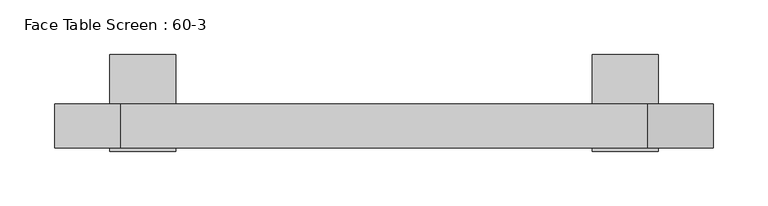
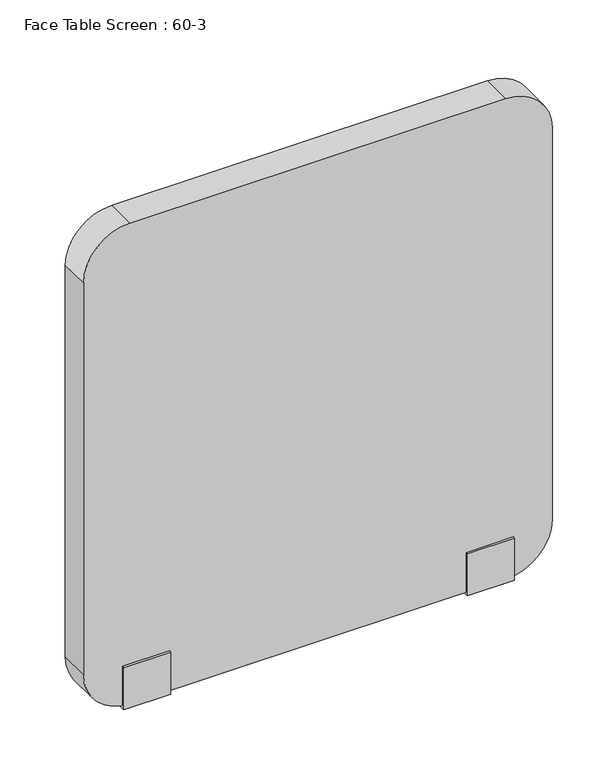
"""IFC4 building model written with IfcOpenShell, lengths in millimetres: furniture geometry, Face Table Screen : 60-3."""

import ifcopenshell
import ifcopenshell.guid

model = None  # the IFC model being written
_history = None  # IfcOwnerHistory: only IFC2X3 demands one
_inside = {}  # id of a spatial element -> (the spatial element, [elements in it])
_under = {}  # id of a project, library or spatial element -> (it, [spatial elements below it])
_declared = {}  # id of a project -> (the project, [libraries it declares])
_typed = {}  # id of a type object -> (the type object, [elements of that type])
_made_of = {}  # id of a material, layer set ... -> (it, [elements and type objects made of it])


def new_model(schema):
    """Start an empty IFC model of exactly this schema.

    Asked for "IFC4X3", IfcOpenShell would pick the latest addendum, in which some entities
    have other attributes; the version numbers below select the first issue.
    IFC2X3 requires an IfcOwnerHistory on every rooted entity: one is made here for all.
    """
    global model, _history
    if schema == "IFC4X3":
        model = ifcopenshell.file(schema_version=(4, 3, 0, 0))
    else:
        model = ifcopenshell.file(schema=schema)
    _inside.clear()
    _under.clear()
    _declared.clear()
    _typed.clear()
    _made_of.clear()
    _history = None
    if model.schema == "IFC2X3":
        org = make("IfcOrganization", Name="unknown")
        user = make(
            "IfcPersonAndOrganization",
            ThePerson=make("IfcPerson", FamilyName="unknown"),
            TheOrganization=org,
        )
        app = make(
            "IfcApplication",
            ApplicationDeveloper=org,
            Version="unknown",
            ApplicationFullName="unknown",
            ApplicationIdentifier="unknown",
        )
        _history = make(
            "IfcOwnerHistory",
            OwningUser=user,
            OwningApplication=app,
            ChangeAction="ADDED",
            CreationDate=0,
        )
    return model


def make(cls, **values):
    """One entity of the class cls with the attributes given. An attribute that is None is left unset."""
    return model.create_entity(
        cls, **{name: value for name, value in values.items() if value is not None}
    )


def rooted(cls, **values):
    """An entity with a GlobalId (a new one), such as an element, a storey or a relation."""
    return make(cls, GlobalId=ifcopenshell.guid.new(), OwnerHistory=_history, **values)


def si_unit(unit_type, name, prefix=None):
    """IfcSIUnit, for example si_unit("LENGTHUNIT", "METRE", prefix="MILLI")."""
    return make("IfcSIUnit", UnitType=unit_type, Prefix=prefix, Name=name)


def assignment(units):
    """IfcUnitAssignment: the units of a project."""
    return None if units is None else make("IfcUnitAssignment", Units=units)


def point(xyz):
    """IfcCartesianPoint."""
    return None if xyz is None else make("IfcCartesianPoint", Coordinates=xyz)


def direction(xyz):
    """IfcDirection."""
    return None if xyz is None else make("IfcDirection", DirectionRatios=xyz)


def frame(location, z_axis=None, x_axis=None):
    """IfcAxis2Placement3D, a coordinate frame: its origin and axes. An axis left out is left unset."""
    return make(
        "IfcAxis2Placement3D",
        Location=point(location),
        Axis=direction(z_axis),
        RefDirection=direction(x_axis),
    )


def frame_2d(location, x_axis=None):
    """IfcAxis2Placement2D, a coordinate frame in the plane: its origin and x axis."""
    return make(
        "IfcAxis2Placement2D", Location=point(location), RefDirection=direction(x_axis)
    )


def origin():
    """The frame at (0, 0, 0) with its axes left unset."""
    return frame((0.0, 0.0, 0.0))


def place(relative_to, where):
    """IfcLocalPlacement: puts the frame where relative to a parent placement (None: the world)."""
    return make(
        "IfcLocalPlacement", PlacementRelTo=relative_to, RelativePlacement=where
    )


def context(
    kind, dimensions, precision=None, world=None, true_north=None, identifier=None
):
    """IfcGeometricRepresentationContext, for example the 3D "Model" context."""
    return make(
        "IfcGeometricRepresentationContext",
        ContextIdentifier=identifier,
        ContextType=kind,
        CoordinateSpaceDimension=dimensions,
        Precision=precision,
        WorldCoordinateSystem=world,
        TrueNorth=true_north,
    )


def project(units=None, contexts=None):
    """IfcProject with its units and contexts."""
    return rooted(
        "IfcProject",
        Name="project",
        RepresentationContexts=contexts,
        UnitsInContext=assignment(units),
    )


def spatial(cls, under=None, at=None, **own):
    """A site, building, storey or space (cls), placed at a placement, below another one or the project."""
    s = rooted(cls, ObjectPlacement=at, **own)
    if under is not None:
        _under.setdefault(under.id(), (under, []))[1].append(s)
    return s


def polyline(points):
    """IfcPolyline through the points."""
    return make("IfcPolyline", Points=[point(p) for p in points])


def circle_curve(where, radius):
    """IfcCircle in the frame where."""
    return make("IfcCircle", Position=where, Radius=radius)


def trimmed(basis, trim1, trim2, sense, master):
    """IfcTrimmedCurve: the piece of a basis curve between two trims."""
    return make(
        "IfcTrimmedCurve",
        BasisCurve=basis,
        Trim1=trim1,
        Trim2=trim2,
        SenseAgreement=sense,
        MasterRepresentation=master,
    )


def segment(curve, same_sense, transition):
    """IfcCompositeCurveSegment."""
    return make(
        "IfcCompositeCurveSegment",
        Transition=transition,
        SameSense=same_sense,
        ParentCurve=curve,
    )


def composite_curve(segments, self_intersect=None):
    """IfcCompositeCurve: segments joined end to end."""
    return make("IfcCompositeCurve", Segments=segments, SelfIntersect=self_intersect)


def outline(outer, holes=None, kind="AREA"):
    """IfcArbitraryClosedProfileDef: a profile drawn as a closed curve; with holes, ...WithVoids."""
    if holes is None:
        return make("IfcArbitraryClosedProfileDef", ProfileType=kind, OuterCurve=outer)
    return make(
        "IfcArbitraryProfileDefWithVoids",
        ProfileType=kind,
        OuterCurve=outer,
        InnerCurves=holes,
    )


def extrude(swept, where, along, depth):
    """IfcExtrudedAreaSolid: the profile swept, set in the frame where, extruded along a direction by depth."""
    return make(
        "IfcExtrudedAreaSolid",
        SweptArea=swept,
        Position=where,
        ExtrudedDirection=direction(along),
        Depth=depth,
    )


def shape(context_of_items, identifier, shape_type, items):
    """IfcShapeRepresentation: the items that make up one representation, for example the "Body"."""
    return make(
        "IfcShapeRepresentation",
        ContextOfItems=context_of_items,
        RepresentationIdentifier=identifier,
        RepresentationType=shape_type,
        Items=items,
    )


def source(mapping_origin, context_of_items, identifier, shape_type, items):
    """IfcRepresentationMap: a shape defined once, which mapped items show again and again."""
    return make(
        "IfcRepresentationMap",
        MappingOrigin=mapping_origin,
        MappedRepresentation=shape(context_of_items, identifier, shape_type, items),
    )


def transform(
    local_origin,
    x_axis=None,
    y_axis=None,
    z_axis=None,
    scale=None,
    scale2=None,
    scale3=None,
    uniform=True,
):
    """IfcCartesianTransformationOperator3D, or its non-uniform kind. x_axis, y_axis, z_axis: its Axis1, 2, 3."""
    if uniform:
        return make(
            "IfcCartesianTransformationOperator3D",
            Axis1=direction(x_axis),
            Axis2=direction(y_axis),
            LocalOrigin=point(local_origin),
            Scale=scale,
            Axis3=direction(z_axis),
        )
    return make(
        "IfcCartesianTransformationOperator3DnonUniform",
        Axis1=direction(x_axis),
        Axis2=direction(y_axis),
        LocalOrigin=point(local_origin),
        Scale=scale,
        Axis3=direction(z_axis),
        Scale2=scale2,
        Scale3=scale3,
    )


def mapped(mapping_source, mapping_target):
    """IfcMappedItem: shows the shape of a source again, moved by a transform."""
    return make(
        "IfcMappedItem", MappingSource=mapping_source, MappingTarget=mapping_target
    )


def made_of(thing, what):
    """Note that an element or type object is made of a material, layer set ...; save() writes the relation."""
    if what is not None:
        _made_of.setdefault(what.id(), (what, []))[1].append(thing)
    return thing


def element(
    cls,
    number,
    at=None,
    inside=None,
    cuts=None,
    type_object=None,
    material=None,
    context=None,
    identifier="Body",
    shape_type=None,
    held_by="IfcProductDefinitionShape",
    body=None,
    shapes=None,
    **own,
):
    """One element of the class cls, such as IfcWall. Its Tag is "e" and its number.

    at: its placement. inside: the storey or other place that contains it. cuts: it is an
    opening in that element (IfcRelVoidsElement). A single representation is given by context,
    identifier, shape_type and body (its items); several are given by shapes. held_by: the class
    of the entity that holds the representations. save() writes the other relations.
    """
    e = rooted(cls, Tag="e%d" % number, ObjectPlacement=at, **own)
    if body is not None:
        shapes = [shape(context, identifier, shape_type, body)]
    if shapes is not None:
        e.Representation = make(held_by, Representations=shapes)
    if inside is not None:
        _inside.setdefault(inside.id(), (inside, []))[1].append(e)
    if cuts is not None:
        rooted(
            "IfcRelVoidsElement", RelatingBuildingElement=cuts, RelatedOpeningElement=e
        )
    if type_object is not None:
        _typed.setdefault(type_object.id(), (type_object, []))[1].append(e)
    return made_of(e, material)


def aggregate(whole, parts):
    """IfcRelAggregates: a whole, such as a stair, and the parts it consists of."""
    return rooted("IfcRelAggregates", RelatingObject=whole, RelatedObjects=parts)


def save(model, path):
    """Write the relations noted so far, then the file.

    IfcRelAggregates (storeys below a building ...), IfcRelContainedInSpatialStructure (elements
    in a storey), IfcRelDefinesByType, IfcRelAssociatesMaterial and IfcRelDeclares: one each for
    every whole, place, type object, material and project.
    """
    for whole, parts in _under.values():
        aggregate(whole, parts)
    for where, things in _inside.values():
        rooted(
            "IfcRelContainedInSpatialStructure",
            RelatedElements=things,
            RelatingStructure=where,
        )
    for kind, things in _typed.values():
        rooted("IfcRelDefinesByType", RelatedObjects=things, RelatingType=kind)
    for what, things in _made_of.values():
        rooted("IfcRelAssociatesMaterial", RelatedObjects=things, RelatingMaterial=what)
    for by, libraries in _declared.values():
        rooted("IfcRelDeclares", RelatingContext=by, RelatedDefinitions=libraries)
    model.write(path)


def face_table_screen_60_3_92aabae8(model_context):
    return source(origin(), model_context, "Body", "SweptSolid", [
        extrude(outline(polyline([(-22.9999947, -156.0), (-22.9999997, -99.0433898), (-20.0, -99.0433898), (-20.0, -153.0), (20.0, -153.0), (20.0, -22.0), (65.0, -22.0), (65.0, -25.0433898), (23.0000062, -25.0433898), (22.9999947, -156.0), (-22.9999947, -156.0)])), frame((190.0, 0.0, 0.0), z_axis=(1.0, 0.0, 0.0), x_axis=(0.0, 1.0, 0.0)), (0.0, 0.0, 1.0), 60.0),
        extrude(outline(polyline([(-22.9999947, -156.0), (-22.9999997, -99.0433898), (-20.0, -99.0433898), (-20.0, -153.0), (20.0, -153.0), (20.0, -22.0), (65.0, -22.0), (65.0, -25.0433898), (23.0000062, -25.0433898), (22.9999947, -156.0), (-22.9999947, -156.0)])), frame((-250.0, 0.0, 0.0), z_axis=(1.0, 0.0, 0.0), x_axis=(0.0, 1.0, 0.0)), (0.0, 0.0, 1.0), 60.0),
        extrude(outline(composite_curve([segment(polyline([(497.0, 240.0), (497.0, -240.0)]), True, "CONTINUOUS"), segment(trimmed(circle_curve(frame_2d((437.0, -240.0)), 60.0), [point((497.0, -240.0))], [point((437.0, -300.0))], False, "CARTESIAN"), True, "CONTINUOUS"), segment(polyline([(437.0, -300.0), (-93.0, -300.0)]), True, "CONTINUOUS"), segment(trimmed(circle_curve(frame_2d((-93.0, -240.0)), 60.0), [point((-93.0, -300.0))], [point((-153.0, -240.0))], False, "CARTESIAN"), True, "CONTINUOUS"), segment(polyline([(-153.0, -240.0), (-153.0, 240.0)]), True, "CONTINUOUS"), segment(trimmed(circle_curve(frame_2d((-93.0, 240.0)), 60.0), [point((-153.0, 240.0))], [point((-93.0, 300.0))], False, "CARTESIAN"), True, "CONTINUOUS"), segment(polyline([(-93.0, 300.0), (437.0, 300.0)]), True, "CONTINUOUS"), segment(trimmed(circle_curve(frame_2d((437.0, 240.0)), 60.0), [point((437.0, 300.0))], [point((497.0, 240.0))], False, "CARTESIAN"), True, "CONTINUOUS")], self_intersect=False)), frame((0.0, -20.0, 0.0), z_axis=(0.0, 1.0, 0.0), x_axis=(0.0, 0.0, 1.0)), (0.0, 0.0, 1.0), 40.0),
    ])


if __name__ == "__main__":
    model = new_model("IFC4")
    model_context = context("Model", 3, world=origin())
    ifc_project = project(units=[si_unit("LENGTHUNIT", "METRE", prefix="MILLI")], contexts=[model_context])
    site = spatial("IfcSite", under=ifc_project)
    building = spatial("IfcBuilding", under=site)
    placement = place(None, origin())
    face_table_screen_60_3_shape = face_table_screen_60_3_92aabae8(model_context)
    element("IfcFurniture", 1, ObjectType="Face Table Screen : 60-3", at=placement, inside=building, context=model_context, shape_type="MappedRepresentation", body=[
        mapped(face_table_screen_60_3_shape, transform((0.0, 0.0, 0.0), x_axis=(1.0, 0.0, 0.0), y_axis=(0.0, 1.0, 0.0), z_axis=(0.0, 0.0, 1.0))),
    ])
    save(model, "model.ifc")
